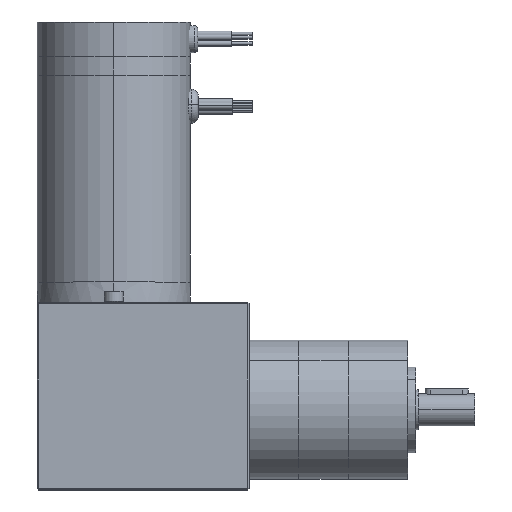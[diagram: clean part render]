
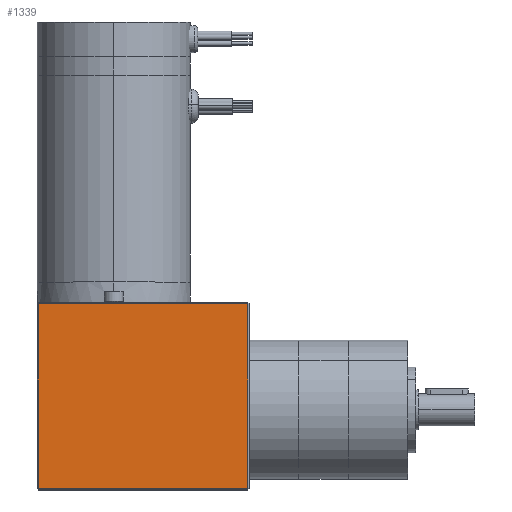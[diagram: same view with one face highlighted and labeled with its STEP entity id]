
A CAD part, top view. The second image highlights one B-rep face of the part: STEP entity #1339.
In plain terms, the highlighted planar face has unit normal (0, 0, 1).
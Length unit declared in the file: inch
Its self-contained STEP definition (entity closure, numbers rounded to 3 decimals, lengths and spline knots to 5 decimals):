
#211 = CARTESIAN_POINT ( 'NONE',  ( 6.33754, 1.0202, 2.94555 ) ) ;
#756 = CARTESIAN_POINT ( 'NONE',  ( 7.87404, 2.3952, 2.94555 ) ) ;
#879 = ORIENTED_EDGE ( 'NONE', *, *, #12927, .T. ) ;
#991 = CARTESIAN_POINT ( 'NONE',  ( 4.80104, 2.3752, 2.94555 ) ) ;
#1339 = ADVANCED_FACE ( 'NONE', ( #11932 ), #12681, .T. ) ;
#2099 = VERTEX_POINT ( 'NONE', #17460 ) ;
#2288 = DIRECTION ( 'NONE',  ( 1., 0., 0. ) ) ;
#3558 = ORIENTED_EDGE ( 'NONE', *, *, #21524, .T. ) ;
#4290 = LINE ( 'NONE', #25246, #25828 ) ;
#4317 = EDGE_LOOP ( 'NONE', ( #879, #15432, #3558, #13116 ) ) ;
#5095 = VECTOR ( 'NONE', #21995, 39.37008 ) ;
#5888 = VERTEX_POINT ( 'NONE', #21055 ) ;
#6063 = VERTEX_POINT ( 'NONE', #991 ) ;
#6580 = AXIS2_PLACEMENT_3D ( 'NONE', #211, #14762, #2288 ) ;
#9247 = LINE ( 'NONE', #17835, #25243 ) ;
#10667 = LINE ( 'NONE', #26020, #5095 ) ;
#11932 = FACE_OUTER_BOUND ( 'NONE', #4317, .T. ) ;
#12681 = PLANE ( 'NONE',  #6580 ) ;
#12927 = EDGE_CURVE ( 'NONE', #2099, #18243, #9247, .T. ) ;
#13116 = ORIENTED_EDGE ( 'NONE', *, *, #14770, .T. ) ;
#14762 = DIRECTION ( 'NONE',  ( 0., 0., 1. ) ) ;
#14770 = EDGE_CURVE ( 'NONE', #6063, #2099, #10667, .T. ) ;
#15291 = CARTESIAN_POINT ( 'NONE',  ( 7.87404, -0.3348, 2.94555 ) ) ;
#15432 = ORIENTED_EDGE ( 'NONE', *, *, #24609, .T. ) ;
#16882 = LINE ( 'NONE', #756, #22743 ) ;
#17460 = CARTESIAN_POINT ( 'NONE',  ( 4.80104, -0.3348, 2.94555 ) ) ;
#17835 = CARTESIAN_POINT ( 'NONE',  ( 7.89404, -0.3348, 2.94555 ) ) ;
#18243 = VERTEX_POINT ( 'NONE', #15291 ) ;
#19578 = DIRECTION ( 'NONE',  ( -1., 0., 0. ) ) ;
#19706 = DIRECTION ( 'NONE',  ( 0., 1., 0. ) ) ;
#20213 = DIRECTION ( 'NONE',  ( 1., 0., 0. ) ) ;
#21055 = CARTESIAN_POINT ( 'NONE',  ( 7.87404, 2.3752, 2.94555 ) ) ;
#21524 = EDGE_CURVE ( 'NONE', #5888, #6063, #4290, .T. ) ;
#21995 = DIRECTION ( 'NONE',  ( 0., -1., 0. ) ) ;
#22743 = VECTOR ( 'NONE', #19706, 39.37008 ) ;
#24609 = EDGE_CURVE ( 'NONE', #18243, #5888, #16882, .T. ) ;
#25243 = VECTOR ( 'NONE', #20213, 39.37008 ) ;
#25246 = CARTESIAN_POINT ( 'NONE',  ( 4.78104, 2.3752, 2.94555 ) ) ;
#25828 = VECTOR ( 'NONE', #19578, 39.37008 ) ;
#26020 = CARTESIAN_POINT ( 'NONE',  ( 4.80104, -0.3548, 2.94555 ) ) ;
